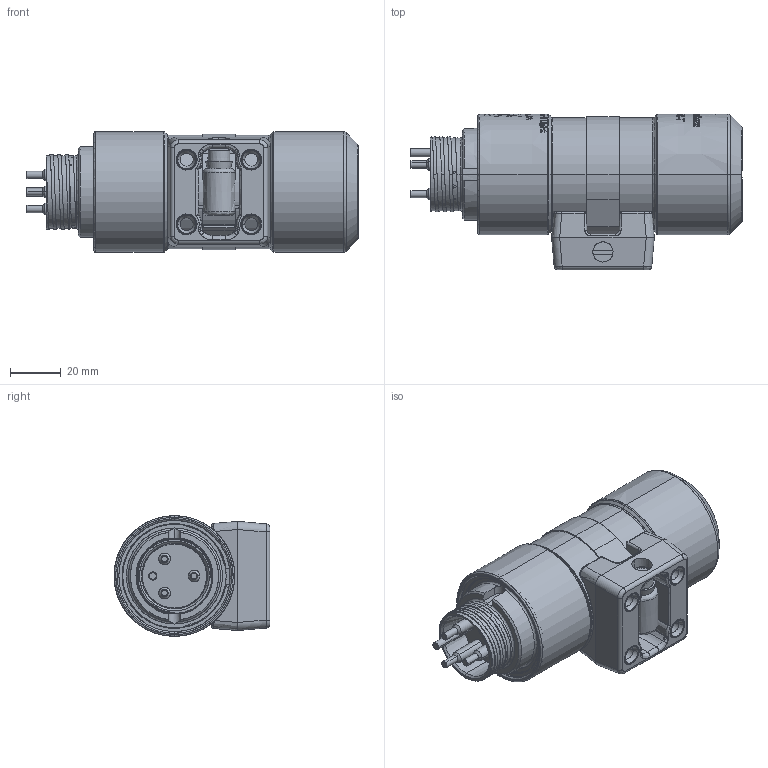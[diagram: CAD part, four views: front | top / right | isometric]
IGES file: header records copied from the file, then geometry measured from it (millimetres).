
Start section: SolidWorks IGES file using analytic representation for surfaces
Global section: file name: W:\740_Video_Cam\067_LED_MSC\Sales\Models_For_Customer_Fit\740-067-001_LED-MSC_FINAL_20100830a.IGS; native system: SolidWorks 2010; preprocessor: SolidWorks 2010; author: Matthew_Klick; date: 100830.094203; units: inch
Bounding box: 130.38 x 61.15 x 47.37 mm (x, y, z)
Surface area: 35643 mm2 (no closed solid volume)
Topology: 0 solids, 0 shells, 637 faces, 13128 edges, 13118 vertices
Faces by surface type: bspline 347, revolution 290
